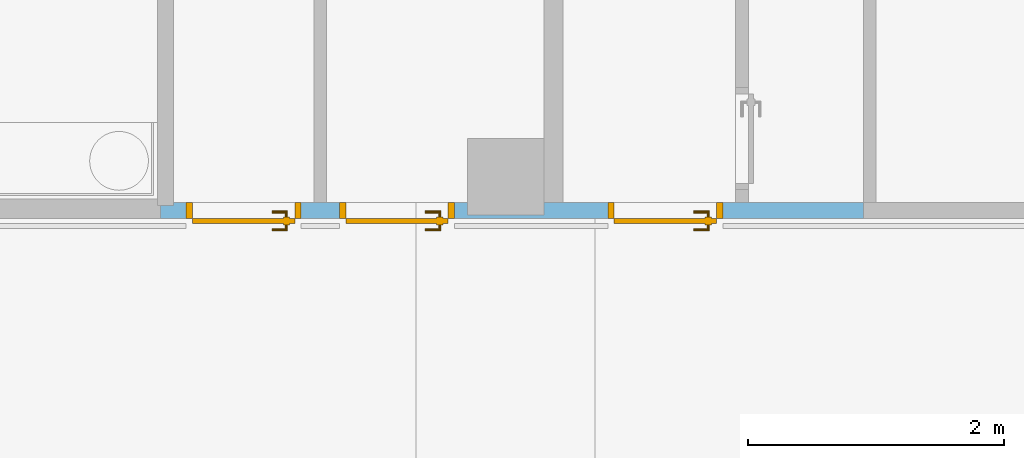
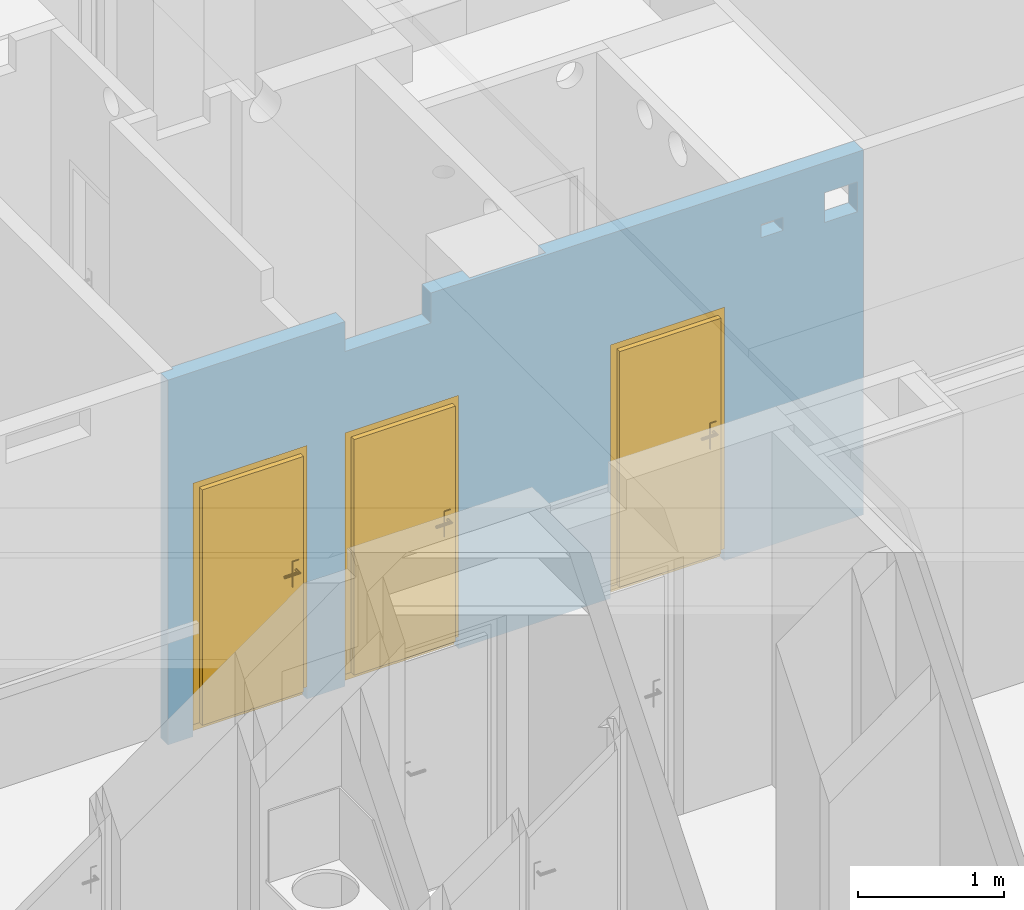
# One storey, part 64 of 84: 3 doors, 7 openings, plus 1 element that does not belong to this part.
"""IFC4 building model written with IfcOpenShell, lengths in metres."""

from ifc_helpers import new_model, entity, si_unit, converted_unit, derived_unit, frame, origin, origin_with_axes, place, context, subcontext, project, spatial, polyline, outline, extrude, closed_shell, open_shell, surface_model, source, transform, mapped, material, layer, layer_set, layer_usage, type_object, element, fill, save


model = new_model("IFC4")

# Units and contexts
model_context = context("Model", 3, precision=1e-05, world=origin())
body_context = subcontext(model_context, "Body", "Model", "MODEL_VIEW")
ifc_project = project(units=[si_unit("LENGTHUNIT", "METRE"), si_unit("AREAUNIT", "SQUARE_METRE"), si_unit("VOLUMEUNIT", "CUBIC_METRE"), si_unit("MASSUNIT", "GRAM", prefix="KILO"), converted_unit("PLANEANGLEUNIT", "DEGREE", entity("IfcPlaneAngleMeasure", 0.0174532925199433), si_unit("PLANEANGLEUNIT", "RADIAN"), dimensions=[0, 0, 0, 0, 0, 0, 0]), derived_unit("THERMALTRANSMITTANCEUNIT", [(si_unit("POWERUNIT", "WATT"), 1), (si_unit("THERMODYNAMICTEMPERATUREUNIT", "KELVIN"), -1), (si_unit("LENGTHUNIT", "METRE"), -2)]), derived_unit("VOLUMETRICFLOWRATEUNIT", [(si_unit("LENGTHUNIT", "METRE"), 3), (converted_unit("TIMEUNIT", "hour", entity("IfcTimeMeasure", 3600.0), si_unit("TIMEUNIT", "SECOND"), dimensions=[0, 0, 1, 0, 0, 0, 0]), -1), (si_unit("LENGTHUNIT", "METRE"), -1)])], contexts=[model_context])

# Site, building, storey
site_placement = place(None, origin())
site = spatial("IfcSite", under=ifc_project, at=site_placement, Name="3. ASŘ", CompositionType="ELEMENT")
building_placement = place(site_placement, origin())
building = spatial("IfcBuilding", under=site, at=building_placement, Name="Pavilon C", CompositionType="ELEMENT")
storey_placement = place(building_placement, frame((0.0, 0.0, -3.3)))
storey = spatial("IfcBuildingStorey", under=building, at=storey_placement, Name="Půdorys 1.PP", CompositionType="ELEMENT", Elevation=-3.3)

# Wall, openings, doors
ifc_material = material(Name="SDK - 1 KCE + DVOJITÉ OPLÁŠTĚNÍ")
ifc_layer = layer(ifc_material, 0.125)
ifc_layer_set = layer_set([ifc_layer])
ifc_layer_usage = layer_usage(ifc_layer_set, "AXIS2", "POSITIVE", 0.0)
wall_placement = place(storey_placement, frame((21.3, 9.875, -0.1)))
wall = element("IfcWall", 1, at=wall_placement, inside=storey, material=ifc_layer_usage, Name="SDK - 1 KCE + DVOJITÉ OPLÁŠTĚNÍ", context=body_context, shape_type="SweptSolid", body=[
    extrude(outline(polyline([(0.0, 0.0), (5.5, 0.0), (5.5, 0.125), (0.1, 0.125), (0.1, 0.1), (0.0, 0.1), (0.0, 0.0)])), origin_with_axes(), (0.0, 0.0, 1.0), 3.05),
])
opening_1_placement = place(wall_placement, frame((4.4, 0.125, 0.0), z_axis=(0.0, -1.0, 0.0), x_axis=(0.0, 0.0, 1.0)))
opening_1 = element("IfcOpeningElement", 2, at=opening_1_placement, cuts=wall, Name="Dveřní otvor", ObjectType="Opening", context=body_context, shape_type="SweptSolid", body=[
    extrude(outline(polyline([(0.0, 0.9), (2.12, 0.9), (2.12, 0.0), (0.0, 0.0), (0.0, 0.9)])), origin_with_axes(), (0.0, 0.0, 1.0), 0.125),
])
opening_2_placement = place(wall_placement, frame((1.1, 0.125, 0.0), z_axis=(0.0, -1.0, 0.0), x_axis=(0.0, 0.0, 1.0)))
opening_2 = element("IfcOpeningElement", 3, at=opening_2_placement, cuts=wall, Name="Dveřní otvor", ObjectType="Opening", context=body_context, shape_type="SweptSolid", body=[
    extrude(outline(polyline([(0.0, 0.9), (2.12, 0.9), (2.12, 0.0), (0.0, 0.0), (0.0, 0.9)])), origin_with_axes(), (0.0, 0.0, 1.0), 0.125),
])
opening_3_placement = place(wall_placement, frame((2.3, 0.125, 0.0), z_axis=(0.0, -1.0, 0.0), x_axis=(0.0, 0.0, 1.0)))
opening_3 = element("IfcOpeningElement", 4, at=opening_3_placement, cuts=wall, Name="Dveřní otvor", ObjectType="Opening", context=body_context, shape_type="SweptSolid", body=[
    extrude(outline(polyline([(0.0, 0.9), (2.12, 0.9), (2.12, 0.0), (0.0, 0.0), (0.0, 0.9)])), origin_with_axes(), (0.0, 0.0, 1.0), 0.125),
])
opening_4_placement = place(wall_placement, frame((3.0, 0.125, 0.0), z_axis=(0.0, -1.0, 0.0), x_axis=(0.0, 0.0, 1.0)))
element("IfcOpeningElement", 5, at=opening_4_placement, cuts=wall, Name="Prostup stěnou", ObjectType="Opening", context=body_context, shape_type="SweptSolid", body=[
    extrude(outline(polyline([(0.0, 0.6), (3.05, 0.6), (3.05, 0.0), (0.0, 0.0), (0.0, 0.6)])), origin_with_axes(), (0.0, 0.0, 1.0), 0.1),
])
opening_5_placement = place(wall_placement, frame((2.08068477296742, 0.124999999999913, 2.8), z_axis=(0.0, -1.0, 0.0), x_axis=(0.0, 0.0, 1.0)))
element("IfcOpeningElement", 6, at=opening_5_placement, cuts=wall, Name="VZT", ObjectType="Opening", context=body_context, shape_type="SweptSolid", body=[
    extrude(outline(polyline([(0.0, 0.68), (0.25, 0.68), (0.25, 0.0), (0.0, 0.0), (0.0, 0.68)])), origin_with_axes(), (0.0, 0.0, 1.0), 0.125),
])
opening_6_placement = place(wall_placement, frame((5.19253208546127, 0.0, 2.55), z_axis=(0.0, 1.0, 0.0), x_axis=(0.0, 0.0, 1.0)))
element("IfcOpeningElement", 7, at=opening_6_placement, cuts=wall, Name="VZT", ObjectType="Opening", context=body_context, shape_type="SweptSolid", body=[
    extrude(outline(polyline([(0.0, 0.26), (0.25, 0.26), (0.25, 0.0), (0.0, 0.0), (0.0, 0.26)])), origin_with_axes(), (0.0, 0.0, 1.0), 0.125),
])
opening_7_placement = place(wall_placement, frame((4.68841099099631, 0.0, 2.6), z_axis=(0.0, 1.0, 0.0), x_axis=(0.0, 0.0, 1.0)))
element("IfcOpeningElement", 8, at=opening_7_placement, cuts=wall, Name="ZTI", ObjectType="Opening", context=body_context, shape_type="SweptSolid", body=[
    extrude(outline(polyline([(0.0, 0.175), (0.11, 0.175), (0.11, 0.0), (0.0, 0.0), (0.0, 0.175)])), origin_with_axes(), (0.0, 0.0, 1.0), 0.125),
])
door_type_1 = type_object("IfcDoorType", Name="I.D013", OperationType="NOTDEFINED", ParameterTakesPrecedence=False, PredefinedType="DOOR")
shared_shape_1 = source(origin_with_axes(), body_context, "Body", "SurfaceModel", [
    surface_model("IfcShellBasedSurfaceModel", [(0.0, 0.0625, 0.0), (0.9, 0.0625, 0.0), (0.9, 0.0625, 0.1), (0.0, 0.0625, 0.1)], [open_shell([[[0, 1, 2, 3]]], orient=[[False]])]),
    surface_model("IfcShellBasedSurfaceModel", [(0.0, 0.125, 2.12), (0.0, 0.125, 0.101), (0.05, 0.125, 0.101), (0.05, 0.125, 2.12), (0.0, 0.0, 0.101), (0.0, 2.41584530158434e-16, 2.12), (0.05, 2.41584530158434e-16, 2.12), (0.05, 0.0, 0.101)], [closed_shell([[[0, 1, 2, 3]], [[4, 5, 6, 7]], [[1, 0, 5, 4]], [[2, 1, 4, 7]], [[3, 2, 7, 6]], [[0, 3, 6, 5]]], orient=[[False], [False], [False], [False], [False], [False]])]),
    surface_model("IfcShellBasedSurfaceModel", [(0.85, 0.125, 2.12), (0.85, 0.125, 0.101), (0.9, 0.125, 0.101), (0.9, 0.125, 2.12), (0.85, 0.0, 0.101), (0.85, 2.41584530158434e-16, 2.12), (0.9, 2.41584530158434e-16, 2.12), (0.9, 0.0, 0.101)], [closed_shell([[[0, 1, 2, 3]], [[4, 5, 6, 7]], [[1, 0, 5, 4]], [[2, 1, 4, 7]], [[3, 2, 7, 6]], [[0, 3, 6, 5]]], orient=[[False], [False], [False], [False], [False], [False]])]),
    surface_model("IfcShellBasedSurfaceModel", [(0.05, 0.125, 2.12), (0.05, 0.125, 2.07), (0.85, 0.125, 2.07), (0.85, 0.125, 2.12), (0.05, 2.41584530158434e-16, 2.07), (0.05, 2.41584530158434e-16, 2.12), (0.85, 2.41584530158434e-16, 2.12), (0.85, 2.41584530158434e-16, 2.07)], [closed_shell([[[0, 1, 2, 3]], [[4, 5, 6, 7]], [[1, 0, 5, 4]], [[2, 1, 4, 7]], [[3, 2, 7, 6]], [[0, 3, 6, 5]]], orient=[[False], [False], [False], [False], [False], [False]])]),
    surface_model("IfcShellBasedSurfaceModel", [(0.05, 0.165, 2.07), (0.05, 0.165, 0.101), (0.85, 0.165, 0.101), (0.85, 0.165, 2.07), (0.05, 0.125, 0.101), (0.05, 0.125, 2.07), (0.85, 0.125, 2.07), (0.85, 0.125, 0.101)], [closed_shell([[[0, 1, 2, 3]], [[4, 5, 6, 7]], [[1, 0, 5, 4]], [[2, 1, 4, 7]], [[3, 2, 7, 6]], [[0, 3, 6, 5]]], orient=[[False], [False], [False], [False], [False], [False]])]),
    surface_model("IfcShellBasedSurfaceModel", [(0.09, 0.125, 1.226), (0.09, 0.125, 1.011), (0.14, 0.125, 1.011), (0.14, 0.125, 1.226), (0.09, 0.115, 1.011), (0.09, 0.115, 1.226), (0.14, 0.115, 1.226), (0.14, 0.115, 1.011)], [closed_shell([[[0, 1, 2, 3]], [[4, 5, 6, 7]], [[1, 0, 5, 4]], [[2, 1, 4, 7]], [[3, 2, 7, 6]], [[0, 3, 6, 5]]], orient=[[False], [False], [False], [False], [False], [False]])]),
    surface_model("IfcShellBasedSurfaceModel", [(0.115, 0.115, 1.161), (0.11, 0.115, 1.15966025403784), (0.106339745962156, 0.115, 1.156), (0.105, 0.115, 1.151), (0.106339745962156, 0.115, 1.146), (0.11, 0.115, 1.14233974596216), (0.115, 0.115, 1.141), (0.12, 0.115, 1.14233974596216), (0.123660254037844, 0.115, 1.146), (0.125, 0.115, 1.151), (0.123660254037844, 0.115, 1.156), (0.12, 0.115, 1.15966025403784), (0.115, 0.0750000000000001, 1.161), (0.11, 0.0700000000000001, 1.15966025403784), (0.106339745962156, 0.0663397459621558, 1.156), (0.105, 0.0650000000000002, 1.151), (0.106339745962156, 0.0663397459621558, 1.146), (0.11, 0.0700000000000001, 1.14233974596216), (0.115, 0.0750000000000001, 1.141), (0.12, 0.0800000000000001, 1.14233974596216), (0.123660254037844, 0.0836602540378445, 1.146), (0.125, 0.0850000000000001, 1.151), (0.123660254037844, 0.0836602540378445, 1.156), (0.12, 0.0800000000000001, 1.15966025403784), (0.23, 0.0750000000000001, 1.161), (0.23, 0.0700000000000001, 1.15966025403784), (0.23, 0.0663397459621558, 1.156), (0.23, 0.0650000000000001, 1.151), (0.23, 0.0663397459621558, 1.146), (0.23, 0.0700000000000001, 1.14233974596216), (0.23, 0.0750000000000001, 1.141), (0.23, 0.0800000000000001, 1.14233974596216), (0.23, 0.0836602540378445, 1.146), (0.23, 0.0850000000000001, 1.151), (0.23, 0.0836602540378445, 1.156), (0.23, 0.0800000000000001, 1.15966025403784)], [open_shell([[[0, 1, 2, 3, 4, 5, 6, 7, 8, 9, 10, 11]], [[0, 12, 13, 1]], [[1, 13, 14, 2]], [[2, 14, 15, 3]], [[3, 15, 16, 4]], [[4, 16, 17, 5]], [[5, 17, 18, 6]], [[6, 18, 19, 7]], [[7, 19, 20, 8]], [[8, 20, 21, 9]], [[9, 21, 22, 10]], [[10, 22, 23, 11]], [[11, 23, 12, 0]], [[12, 24, 25, 13]], [[13, 25, 26, 14]], [[14, 26, 27, 15]], [[15, 27, 28, 16]], [[16, 28, 29, 17]], [[17, 29, 30, 18]], [[18, 30, 31, 19]], [[19, 31, 32, 20]], [[20, 32, 33, 21]], [[21, 33, 34, 22]], [[22, 34, 35, 23]], [[23, 35, 24, 12]]], orient=[[False], [False], [False], [False], [False], [False], [False], [False], [False], [False], [False], [False], [False], [False], [False], [False], [False], [False], [False], [False], [False], [False], [False], [False], [False]])]),
    surface_model("IfcShellBasedSurfaceModel", [(0.09, 0.165, 1.226), (0.14, 0.165, 1.226), (0.14, 0.165, 1.011), (0.09, 0.165, 1.011), (0.09, 0.175, 1.011), (0.14, 0.175, 1.011), (0.14, 0.175, 1.226), (0.09, 0.175, 1.226)], [closed_shell([[[0, 1, 2, 3]], [[4, 5, 6, 7]], [[3, 4, 7, 0]], [[2, 5, 4, 3]], [[1, 6, 5, 2]], [[0, 7, 6, 1]]], orient=[[False], [False], [False], [False], [False], [False]])]),
    surface_model("IfcShellBasedSurfaceModel", [(0.115, 0.175, 1.161), (0.12, 0.175, 1.15966025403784), (0.123660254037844, 0.175, 1.156), (0.125, 0.175, 1.151), (0.123660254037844, 0.175, 1.146), (0.12, 0.175, 1.14233974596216), (0.115, 0.175, 1.141), (0.11, 0.175, 1.14233974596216), (0.106339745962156, 0.175, 1.146), (0.105, 0.175, 1.151), (0.106339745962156, 0.175, 1.156), (0.11, 0.175, 1.15966025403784), (0.11, 0.22, 1.15966025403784), (0.115, 0.215, 1.161), (0.106339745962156, 0.223660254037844, 1.156), (0.105, 0.225, 1.151), (0.106339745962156, 0.223660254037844, 1.146), (0.11, 0.22, 1.14233974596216), (0.115, 0.215, 1.141), (0.12, 0.21, 1.14233974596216), (0.123660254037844, 0.206339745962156, 1.146), (0.125, 0.205, 1.151), (0.123660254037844, 0.206339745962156, 1.156), (0.12, 0.21, 1.15966025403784), (0.23, 0.22, 1.15966025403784), (0.23, 0.215, 1.161), (0.23, 0.223660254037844, 1.156), (0.23, 0.225, 1.151), (0.23, 0.223660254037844, 1.146), (0.23, 0.22, 1.14233974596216), (0.23, 0.215, 1.141), (0.23, 0.21, 1.14233974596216), (0.23, 0.206339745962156, 1.146), (0.23, 0.205, 1.151), (0.23, 0.206339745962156, 1.156), (0.23, 0.21, 1.15966025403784)], [open_shell([[[0, 1, 2, 3, 4, 5, 6, 7, 8, 9, 10, 11]], [[0, 11, 12, 13]], [[11, 10, 14, 12]], [[10, 9, 15, 14]], [[9, 8, 16, 15]], [[8, 7, 17, 16]], [[7, 6, 18, 17]], [[6, 5, 19, 18]], [[5, 4, 20, 19]], [[4, 3, 21, 20]], [[3, 2, 22, 21]], [[2, 1, 23, 22]], [[1, 0, 13, 23]], [[13, 12, 24, 25]], [[12, 14, 26, 24]], [[14, 15, 27, 26]], [[15, 16, 28, 27]], [[16, 17, 29, 28]], [[17, 18, 30, 29]], [[18, 19, 31, 30]], [[19, 20, 32, 31]], [[20, 21, 33, 32]], [[21, 22, 34, 33]], [[22, 23, 35, 34]], [[23, 13, 25, 35]]], orient=[[False], [False], [False], [False], [False], [False], [False], [False], [False], [False], [False], [False], [False], [False], [False], [False], [False], [False], [False], [False], [False], [False], [False], [False], [False]])]),
])
door_1_placement = place(opening_1_placement, frame((0.0, 0.0, 0.0), z_axis=(1.0, 0.0, 0.0), x_axis=(0.0, 1.0, -1.22464679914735e-16)))
door_1 = element("IfcDoor", 9, at=door_1_placement, inside=storey, type_object=door_type_1, Name="I.D013", OverallHeight=2.12, OverallWidth=0.9, context=body_context, shape_type="MappedRepresentation", body=[
    mapped(shared_shape_1, transform((0.0, 0.0, 0.0), x_axis=(1.0, 0.0, 0.0), y_axis=(0.0, 1.0, 0.0), z_axis=(0.0, 0.0, 1.0), scale=1.0)),
])
fill(opening_1, door_1)
door_type_2 = type_object("IfcDoorType", Name="I.D010", OperationType="NOTDEFINED", ParameterTakesPrecedence=False, PredefinedType="DOOR")
shared_shape_2 = source(origin_with_axes(), body_context, "Body", "SurfaceModel", [
    surface_model("IfcShellBasedSurfaceModel", [(0.0, 0.0625, 0.0), (0.9, 0.0625, 0.0), (0.9, 0.0625, 0.1), (0.0, 0.0625, 0.1)], [open_shell([[[0, 1, 2, 3]]], orient=[[False]])]),
    surface_model("IfcShellBasedSurfaceModel", [(0.0, 0.125, 2.12), (0.0, 0.125, 0.101), (0.05, 0.125, 0.101), (0.05, 0.125, 2.12), (0.0, 0.0, 0.101), (0.0, 2.41584530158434e-16, 2.12), (0.05, 2.41584530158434e-16, 2.12), (0.05, 0.0, 0.101)], [closed_shell([[[0, 1, 2, 3]], [[4, 5, 6, 7]], [[1, 0, 5, 4]], [[2, 1, 4, 7]], [[3, 2, 7, 6]], [[0, 3, 6, 5]]], orient=[[False], [False], [False], [False], [False], [False]])]),
    surface_model("IfcShellBasedSurfaceModel", [(0.85, 0.125, 2.12), (0.85, 0.125, 0.101), (0.9, 0.125, 0.101), (0.9, 0.125, 2.12), (0.85, 0.0, 0.101), (0.85, 2.41584530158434e-16, 2.12), (0.9, 2.41584530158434e-16, 2.12), (0.9, 0.0, 0.101)], [closed_shell([[[0, 1, 2, 3]], [[4, 5, 6, 7]], [[1, 0, 5, 4]], [[2, 1, 4, 7]], [[3, 2, 7, 6]], [[0, 3, 6, 5]]], orient=[[False], [False], [False], [False], [False], [False]])]),
    surface_model("IfcShellBasedSurfaceModel", [(0.05, 0.125, 2.12), (0.05, 0.125, 2.07), (0.85, 0.125, 2.07), (0.85, 0.125, 2.12), (0.05, 2.41584530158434e-16, 2.07), (0.05, 2.41584530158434e-16, 2.12), (0.85, 2.41584530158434e-16, 2.12), (0.85, 2.41584530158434e-16, 2.07)], [closed_shell([[[0, 1, 2, 3]], [[4, 5, 6, 7]], [[1, 0, 5, 4]], [[2, 1, 4, 7]], [[3, 2, 7, 6]], [[0, 3, 6, 5]]], orient=[[False], [False], [False], [False], [False], [False]])]),
    surface_model("IfcShellBasedSurfaceModel", [(0.05, 0.165, 2.07), (0.05, 0.165, 0.101), (0.85, 0.165, 0.101), (0.85, 0.165, 2.07), (0.05, 0.125, 0.101), (0.05, 0.125, 2.07), (0.85, 0.125, 2.07), (0.85, 0.125, 0.101)], [closed_shell([[[0, 1, 2, 3]], [[4, 5, 6, 7]], [[1, 0, 5, 4]], [[2, 1, 4, 7]], [[3, 2, 7, 6]], [[0, 3, 6, 5]]], orient=[[False], [False], [False], [False], [False], [False]])]),
    surface_model("IfcShellBasedSurfaceModel", [(0.09, 0.125, 1.226), (0.09, 0.125, 1.011), (0.14, 0.125, 1.011), (0.14, 0.125, 1.226), (0.09, 0.115, 1.011), (0.09, 0.115, 1.226), (0.14, 0.115, 1.226), (0.14, 0.115, 1.011)], [closed_shell([[[0, 1, 2, 3]], [[4, 5, 6, 7]], [[1, 0, 5, 4]], [[2, 1, 4, 7]], [[3, 2, 7, 6]], [[0, 3, 6, 5]]], orient=[[False], [False], [False], [False], [False], [False]])]),
    surface_model("IfcShellBasedSurfaceModel", [(0.115, 0.115, 1.161), (0.11, 0.115, 1.15966025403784), (0.106339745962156, 0.115, 1.156), (0.105, 0.115, 1.151), (0.106339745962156, 0.115, 1.146), (0.11, 0.115, 1.14233974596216), (0.115, 0.115, 1.141), (0.12, 0.115, 1.14233974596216), (0.123660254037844, 0.115, 1.146), (0.125, 0.115, 1.151), (0.123660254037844, 0.115, 1.156), (0.12, 0.115, 1.15966025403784), (0.115, 0.0750000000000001, 1.161), (0.11, 0.0700000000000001, 1.15966025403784), (0.106339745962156, 0.0663397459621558, 1.156), (0.105, 0.0650000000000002, 1.151), (0.106339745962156, 0.0663397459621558, 1.146), (0.11, 0.0700000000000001, 1.14233974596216), (0.115, 0.0750000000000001, 1.141), (0.12, 0.0800000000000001, 1.14233974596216), (0.123660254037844, 0.0836602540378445, 1.146), (0.125, 0.0850000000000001, 1.151), (0.123660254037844, 0.0836602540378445, 1.156), (0.12, 0.0800000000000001, 1.15966025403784), (0.23, 0.0750000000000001, 1.161), (0.23, 0.0700000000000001, 1.15966025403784), (0.23, 0.0663397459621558, 1.156), (0.23, 0.0650000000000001, 1.151), (0.23, 0.0663397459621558, 1.146), (0.23, 0.0700000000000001, 1.14233974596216), (0.23, 0.0750000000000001, 1.141), (0.23, 0.0800000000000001, 1.14233974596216), (0.23, 0.0836602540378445, 1.146), (0.23, 0.0850000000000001, 1.151), (0.23, 0.0836602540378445, 1.156), (0.23, 0.0800000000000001, 1.15966025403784)], [open_shell([[[0, 1, 2, 3, 4, 5, 6, 7, 8, 9, 10, 11]], [[0, 12, 13, 1]], [[1, 13, 14, 2]], [[2, 14, 15, 3]], [[3, 15, 16, 4]], [[4, 16, 17, 5]], [[5, 17, 18, 6]], [[6, 18, 19, 7]], [[7, 19, 20, 8]], [[8, 20, 21, 9]], [[9, 21, 22, 10]], [[10, 22, 23, 11]], [[11, 23, 12, 0]], [[12, 24, 25, 13]], [[13, 25, 26, 14]], [[14, 26, 27, 15]], [[15, 27, 28, 16]], [[16, 28, 29, 17]], [[17, 29, 30, 18]], [[18, 30, 31, 19]], [[19, 31, 32, 20]], [[20, 32, 33, 21]], [[21, 33, 34, 22]], [[22, 34, 35, 23]], [[23, 35, 24, 12]]], orient=[[False], [False], [False], [False], [False], [False], [False], [False], [False], [False], [False], [False], [False], [False], [False], [False], [False], [False], [False], [False], [False], [False], [False], [False], [False]])]),
    surface_model("IfcShellBasedSurfaceModel", [(0.09, 0.165, 1.226), (0.14, 0.165, 1.226), (0.14, 0.165, 1.011), (0.09, 0.165, 1.011), (0.09, 0.175, 1.011), (0.14, 0.175, 1.011), (0.14, 0.175, 1.226), (0.09, 0.175, 1.226)], [closed_shell([[[0, 1, 2, 3]], [[4, 5, 6, 7]], [[3, 4, 7, 0]], [[2, 5, 4, 3]], [[1, 6, 5, 2]], [[0, 7, 6, 1]]], orient=[[False], [False], [False], [False], [False], [False]])]),
    surface_model("IfcShellBasedSurfaceModel", [(0.115, 0.175, 1.161), (0.12, 0.175, 1.15966025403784), (0.123660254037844, 0.175, 1.156), (0.125, 0.175, 1.151), (0.123660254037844, 0.175, 1.146), (0.12, 0.175, 1.14233974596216), (0.115, 0.175, 1.141), (0.11, 0.175, 1.14233974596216), (0.106339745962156, 0.175, 1.146), (0.105, 0.175, 1.151), (0.106339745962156, 0.175, 1.156), (0.11, 0.175, 1.15966025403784), (0.11, 0.22, 1.15966025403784), (0.115, 0.215, 1.161), (0.106339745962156, 0.223660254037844, 1.156), (0.105, 0.225, 1.151), (0.106339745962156, 0.223660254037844, 1.146), (0.11, 0.22, 1.14233974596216), (0.115, 0.215, 1.141), (0.12, 0.21, 1.14233974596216), (0.123660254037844, 0.206339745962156, 1.146), (0.125, 0.205, 1.151), (0.123660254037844, 0.206339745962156, 1.156), (0.12, 0.21, 1.15966025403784), (0.23, 0.22, 1.15966025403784), (0.23, 0.215, 1.161), (0.23, 0.223660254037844, 1.156), (0.23, 0.225, 1.151), (0.23, 0.223660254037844, 1.146), (0.23, 0.22, 1.14233974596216), (0.23, 0.215, 1.141), (0.23, 0.21, 1.14233974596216), (0.23, 0.206339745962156, 1.146), (0.23, 0.205, 1.151), (0.23, 0.206339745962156, 1.156), (0.23, 0.21, 1.15966025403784)], [open_shell([[[0, 1, 2, 3, 4, 5, 6, 7, 8, 9, 10, 11]], [[0, 11, 12, 13]], [[11, 10, 14, 12]], [[10, 9, 15, 14]], [[9, 8, 16, 15]], [[8, 7, 17, 16]], [[7, 6, 18, 17]], [[6, 5, 19, 18]], [[5, 4, 20, 19]], [[4, 3, 21, 20]], [[3, 2, 22, 21]], [[2, 1, 23, 22]], [[1, 0, 13, 23]], [[13, 12, 24, 25]], [[12, 14, 26, 24]], [[14, 15, 27, 26]], [[15, 16, 28, 27]], [[16, 17, 29, 28]], [[17, 18, 30, 29]], [[18, 19, 31, 30]], [[19, 20, 32, 31]], [[20, 21, 33, 32]], [[21, 22, 34, 33]], [[22, 23, 35, 34]], [[23, 13, 25, 35]]], orient=[[False], [False], [False], [False], [False], [False], [False], [False], [False], [False], [False], [False], [False], [False], [False], [False], [False], [False], [False], [False], [False], [False], [False], [False], [False]])]),
])
door_2_placement = place(opening_2_placement, frame((0.0, 0.0, 0.0), z_axis=(1.0, 0.0, 0.0), x_axis=(0.0, 1.0, -1.22464679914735e-16)))
door_2 = element("IfcDoor", 10, at=door_2_placement, inside=storey, type_object=door_type_2, Name="I.D010", OverallHeight=2.12, OverallWidth=0.9, context=body_context, shape_type="MappedRepresentation", body=[
    mapped(shared_shape_2, transform((0.0, 0.0, 0.0), x_axis=(1.0, 0.0, 0.0), y_axis=(0.0, 1.0, 0.0), z_axis=(0.0, 0.0, 1.0), scale=1.0)),
])
fill(opening_2, door_2)
door_type_3 = type_object("IfcDoorType", Name="I.D012", OperationType="NOTDEFINED", ParameterTakesPrecedence=False, PredefinedType="DOOR")
shared_shape_3 = source(origin_with_axes(), body_context, "Body", "SurfaceModel", [
    surface_model("IfcShellBasedSurfaceModel", [(0.0, 0.0625, 0.0), (0.9, 0.0625, 0.0), (0.9, 0.0625, 0.1), (0.0, 0.0625, 0.1)], [open_shell([[[0, 1, 2, 3]]], orient=[[False]])]),
    surface_model("IfcShellBasedSurfaceModel", [(0.0, 0.125, 2.12), (0.0, 0.125, 0.101), (0.05, 0.125, 0.101), (0.05, 0.125, 2.12), (0.0, 0.0, 0.101), (0.0, 2.41584530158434e-16, 2.12), (0.05, 2.41584530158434e-16, 2.12), (0.05, 0.0, 0.101)], [closed_shell([[[0, 1, 2, 3]], [[4, 5, 6, 7]], [[1, 0, 5, 4]], [[2, 1, 4, 7]], [[3, 2, 7, 6]], [[0, 3, 6, 5]]], orient=[[False], [False], [False], [False], [False], [False]])]),
    surface_model("IfcShellBasedSurfaceModel", [(0.85, 0.125, 2.12), (0.85, 0.125, 0.101), (0.9, 0.125, 0.101), (0.9, 0.125, 2.12), (0.85, 0.0, 0.101), (0.85, 2.41584530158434e-16, 2.12), (0.9, 2.41584530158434e-16, 2.12), (0.9, 0.0, 0.101)], [closed_shell([[[0, 1, 2, 3]], [[4, 5, 6, 7]], [[1, 0, 5, 4]], [[2, 1, 4, 7]], [[3, 2, 7, 6]], [[0, 3, 6, 5]]], orient=[[False], [False], [False], [False], [False], [False]])]),
    surface_model("IfcShellBasedSurfaceModel", [(0.05, 0.125, 2.12), (0.05, 0.125, 2.07), (0.85, 0.125, 2.07), (0.85, 0.125, 2.12), (0.05, 2.41584530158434e-16, 2.07), (0.05, 2.41584530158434e-16, 2.12), (0.85, 2.41584530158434e-16, 2.12), (0.85, 2.41584530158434e-16, 2.07)], [closed_shell([[[0, 1, 2, 3]], [[4, 5, 6, 7]], [[1, 0, 5, 4]], [[2, 1, 4, 7]], [[3, 2, 7, 6]], [[0, 3, 6, 5]]], orient=[[False], [False], [False], [False], [False], [False]])]),
    surface_model("IfcShellBasedSurfaceModel", [(0.05, 0.165, 2.07), (0.05, 0.165, 0.101), (0.85, 0.165, 0.101), (0.85, 0.165, 2.07), (0.05, 0.125, 0.101), (0.05, 0.125, 2.07), (0.85, 0.125, 2.07), (0.85, 0.125, 0.101)], [closed_shell([[[0, 1, 2, 3]], [[4, 5, 6, 7]], [[1, 0, 5, 4]], [[2, 1, 4, 7]], [[3, 2, 7, 6]], [[0, 3, 6, 5]]], orient=[[False], [False], [False], [False], [False], [False]])]),
    surface_model("IfcShellBasedSurfaceModel", [(0.09, 0.125, 1.226), (0.09, 0.125, 1.011), (0.14, 0.125, 1.011), (0.14, 0.125, 1.226), (0.09, 0.115, 1.011), (0.09, 0.115, 1.226), (0.14, 0.115, 1.226), (0.14, 0.115, 1.011)], [closed_shell([[[0, 1, 2, 3]], [[4, 5, 6, 7]], [[1, 0, 5, 4]], [[2, 1, 4, 7]], [[3, 2, 7, 6]], [[0, 3, 6, 5]]], orient=[[False], [False], [False], [False], [False], [False]])]),
    surface_model("IfcShellBasedSurfaceModel", [(0.115, 0.115, 1.161), (0.11, 0.115, 1.15966025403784), (0.106339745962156, 0.115, 1.156), (0.105, 0.115, 1.151), (0.106339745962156, 0.115, 1.146), (0.11, 0.115, 1.14233974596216), (0.115, 0.115, 1.141), (0.12, 0.115, 1.14233974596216), (0.123660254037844, 0.115, 1.146), (0.125, 0.115, 1.151), (0.123660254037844, 0.115, 1.156), (0.12, 0.115, 1.15966025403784), (0.115, 0.0750000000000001, 1.161), (0.11, 0.0700000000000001, 1.15966025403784), (0.106339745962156, 0.0663397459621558, 1.156), (0.105, 0.0650000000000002, 1.151), (0.106339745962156, 0.0663397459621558, 1.146), (0.11, 0.0700000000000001, 1.14233974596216), (0.115, 0.0750000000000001, 1.141), (0.12, 0.0800000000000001, 1.14233974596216), (0.123660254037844, 0.0836602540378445, 1.146), (0.125, 0.0850000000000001, 1.151), (0.123660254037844, 0.0836602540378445, 1.156), (0.12, 0.0800000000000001, 1.15966025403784), (0.23, 0.0750000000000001, 1.161), (0.23, 0.0700000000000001, 1.15966025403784), (0.23, 0.0663397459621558, 1.156), (0.23, 0.0650000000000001, 1.151), (0.23, 0.0663397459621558, 1.146), (0.23, 0.0700000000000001, 1.14233974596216), (0.23, 0.0750000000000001, 1.141), (0.23, 0.0800000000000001, 1.14233974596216), (0.23, 0.0836602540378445, 1.146), (0.23, 0.0850000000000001, 1.151), (0.23, 0.0836602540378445, 1.156), (0.23, 0.0800000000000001, 1.15966025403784)], [open_shell([[[0, 1, 2, 3, 4, 5, 6, 7, 8, 9, 10, 11]], [[0, 12, 13, 1]], [[1, 13, 14, 2]], [[2, 14, 15, 3]], [[3, 15, 16, 4]], [[4, 16, 17, 5]], [[5, 17, 18, 6]], [[6, 18, 19, 7]], [[7, 19, 20, 8]], [[8, 20, 21, 9]], [[9, 21, 22, 10]], [[10, 22, 23, 11]], [[11, 23, 12, 0]], [[12, 24, 25, 13]], [[13, 25, 26, 14]], [[14, 26, 27, 15]], [[15, 27, 28, 16]], [[16, 28, 29, 17]], [[17, 29, 30, 18]], [[18, 30, 31, 19]], [[19, 31, 32, 20]], [[20, 32, 33, 21]], [[21, 33, 34, 22]], [[22, 34, 35, 23]], [[23, 35, 24, 12]]], orient=[[False], [False], [False], [False], [False], [False], [False], [False], [False], [False], [False], [False], [False], [False], [False], [False], [False], [False], [False], [False], [False], [False], [False], [False], [False]])]),
    surface_model("IfcShellBasedSurfaceModel", [(0.09, 0.165, 1.226), (0.14, 0.165, 1.226), (0.14, 0.165, 1.011), (0.09, 0.165, 1.011), (0.09, 0.175, 1.011), (0.14, 0.175, 1.011), (0.14, 0.175, 1.226), (0.09, 0.175, 1.226)], [closed_shell([[[0, 1, 2, 3]], [[4, 5, 6, 7]], [[3, 4, 7, 0]], [[2, 5, 4, 3]], [[1, 6, 5, 2]], [[0, 7, 6, 1]]], orient=[[False], [False], [False], [False], [False], [False]])]),
    surface_model("IfcShellBasedSurfaceModel", [(0.115, 0.175, 1.161), (0.12, 0.175, 1.15966025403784), (0.123660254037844, 0.175, 1.156), (0.125, 0.175, 1.151), (0.123660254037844, 0.175, 1.146), (0.12, 0.175, 1.14233974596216), (0.115, 0.175, 1.141), (0.11, 0.175, 1.14233974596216), (0.106339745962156, 0.175, 1.146), (0.105, 0.175, 1.151), (0.106339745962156, 0.175, 1.156), (0.11, 0.175, 1.15966025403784), (0.11, 0.22, 1.15966025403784), (0.115, 0.215, 1.161), (0.106339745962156, 0.223660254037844, 1.156), (0.105, 0.225, 1.151), (0.106339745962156, 0.223660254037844, 1.146), (0.11, 0.22, 1.14233974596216), (0.115, 0.215, 1.141), (0.12, 0.21, 1.14233974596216), (0.123660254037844, 0.206339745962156, 1.146), (0.125, 0.205, 1.151), (0.123660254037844, 0.206339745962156, 1.156), (0.12, 0.21, 1.15966025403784), (0.23, 0.22, 1.15966025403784), (0.23, 0.215, 1.161), (0.23, 0.223660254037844, 1.156), (0.23, 0.225, 1.151), (0.23, 0.223660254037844, 1.146), (0.23, 0.22, 1.14233974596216), (0.23, 0.215, 1.141), (0.23, 0.21, 1.14233974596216), (0.23, 0.206339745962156, 1.146), (0.23, 0.205, 1.151), (0.23, 0.206339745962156, 1.156), (0.23, 0.21, 1.15966025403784)], [open_shell([[[0, 1, 2, 3, 4, 5, 6, 7, 8, 9, 10, 11]], [[0, 11, 12, 13]], [[11, 10, 14, 12]], [[10, 9, 15, 14]], [[9, 8, 16, 15]], [[8, 7, 17, 16]], [[7, 6, 18, 17]], [[6, 5, 19, 18]], [[5, 4, 20, 19]], [[4, 3, 21, 20]], [[3, 2, 22, 21]], [[2, 1, 23, 22]], [[1, 0, 13, 23]], [[13, 12, 24, 25]], [[12, 14, 26, 24]], [[14, 15, 27, 26]], [[15, 16, 28, 27]], [[16, 17, 29, 28]], [[17, 18, 30, 29]], [[18, 19, 31, 30]], [[19, 20, 32, 31]], [[20, 21, 33, 32]], [[21, 22, 34, 33]], [[22, 23, 35, 34]], [[23, 13, 25, 35]]], orient=[[False], [False], [False], [False], [False], [False], [False], [False], [False], [False], [False], [False], [False], [False], [False], [False], [False], [False], [False], [False], [False], [False], [False], [False], [False]])]),
])
door_3_placement = place(opening_3_placement, frame((0.0, 0.0, 0.0), z_axis=(1.0, 0.0, 0.0), x_axis=(0.0, 1.0, -1.22464679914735e-16)))
door_3 = element("IfcDoor", 11, at=door_3_placement, inside=storey, type_object=door_type_3, Name="I.D012", OverallHeight=2.12, OverallWidth=0.9, context=body_context, shape_type="MappedRepresentation", body=[
    mapped(shared_shape_3, transform((0.0, 0.0, 0.0), x_axis=(1.0, 0.0, 0.0), y_axis=(0.0, 1.0, 0.0), z_axis=(0.0, 0.0, 1.0), scale=1.0)),
])
fill(opening_3, door_3)

save(model, "model.ifc")
